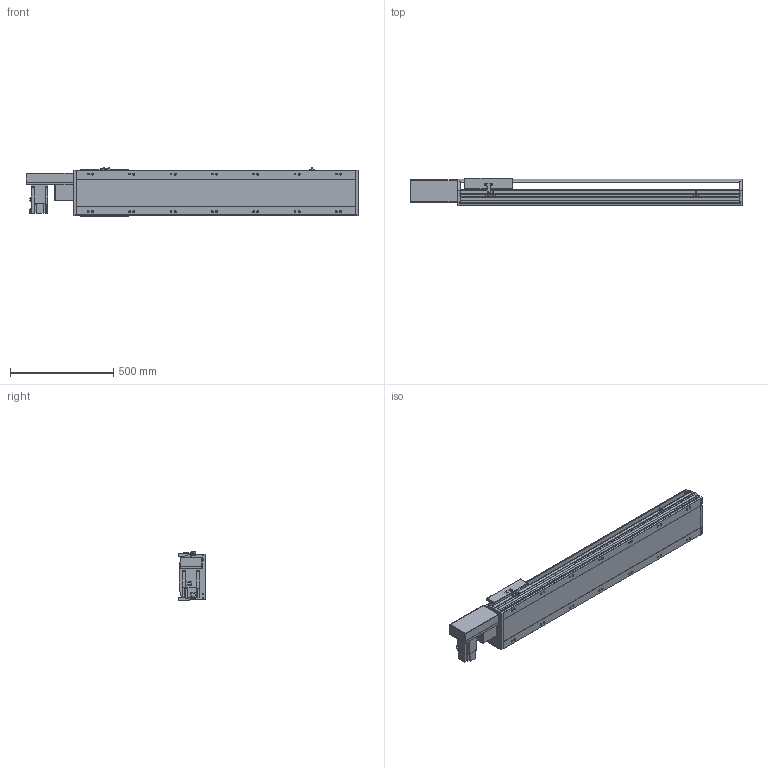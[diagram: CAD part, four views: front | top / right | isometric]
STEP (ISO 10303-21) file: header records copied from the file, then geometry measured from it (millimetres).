
FILE_DESCRIPTION(/* description */ ('STEP AP214'),/* implementation_level */ '2;1');
FILE_NAME(/* name */ 'PBS220-P40-S1000-R-T75-C1-N(0)',/* time_stamp */ '2022-06-11T10:00:38+02:00',/* author */ ('License CC BY-ND 4.0'),/* organization */ ('CADENAS'),/* preprocessor_version */ 'ST-DEVELOPER v18.102',/* originating_system */ 'PARTsolutions',/* authorisation */ ' ');
FILE_SCHEMA (('AUTOMOTIVE_DESIGN {1 0 10303 214 3 1 1}'));
Length unit declared in the file: millimetre
Products named in the file (7): PBS220-P40-S1000-R-T75-C1-N(0); PBS220_sensor; PBS220_plant; PBS220_sliser; T75-p1; PBS220T-R_motors; PBS220-S1000()_body
Assembly tree (8 placements, depth 2):
  PBS220-P40-S1000-R-T75-C1-N(0)
    PBS220_sensor  x3
    PBS220_plant
    PBS220_sliser
    T75-p1
    PBS220T-R_motors
    PBS220-S1000()_body
Bounding box: 1606 x 134 x 238.5 mm (x, y, z)
Volume: 21462328.6 mm3; surface area: 2098735.5 mm2
Topology: 8 solids, 8 shells, 902 faces, 2368 edges, 1540 vertices
Faces by surface type: plane 594, cylinder 270, cone 38
Full cylindrical faces by diameter (mm): 2.013 x4, 4.5 x14, 4.917 x4, 6 x7, 6.647 x8, 8 x10, 8.376 x14, 8.5 x14, 10 x6, 14 x14, 38 x2, 40 x1, 70 x1
Entity records: 25317 total; most frequent: CARTESIAN_POINT 4426, DIRECTION 4401, ORIENTED_EDGE 4070, EDGE_CURVE 2035, AXIS2_PLACEMENT_3D 1529, VERTEX_POINT 1400, LINE 1343, VECTOR 1343
